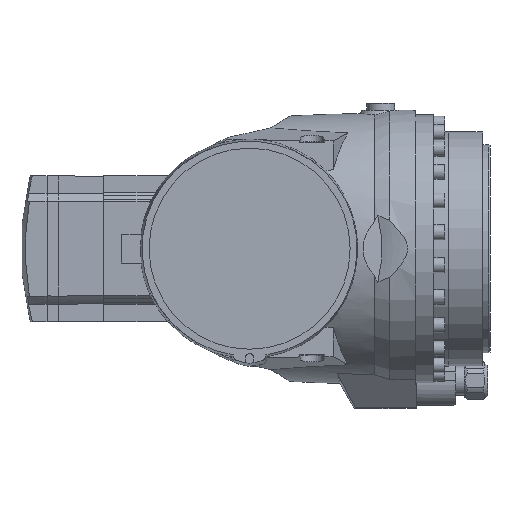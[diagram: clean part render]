
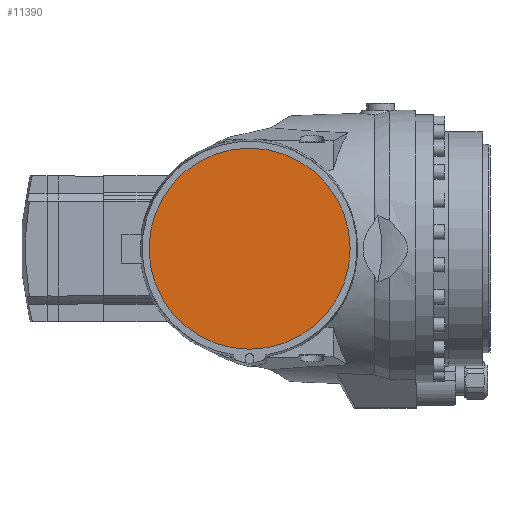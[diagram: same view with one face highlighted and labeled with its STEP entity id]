
A CAD part, front view. The second image highlights one B-rep face of the part: STEP entity #11390.
In plain terms, the highlighted planar face has unit normal (0, -1, 0).
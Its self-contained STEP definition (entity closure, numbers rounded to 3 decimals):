
#264 = DIRECTION ( 'NONE',  ( -1., 0., 0. ) ) ;
#2274 = CARTESIAN_POINT ( 'NONE',  ( 2543.5, -95., 2010. ) ) ;
#2402 = DIRECTION ( 'NONE',  ( 0., 1., 0. ) ) ;
#3552 = VERTEX_POINT ( 'NONE', #9914 ) ;
#3865 = DIRECTION ( 'NONE',  ( 0., 1., 0. ) ) ;
#4220 = FACE_OUTER_BOUND ( 'NONE', #18430, .T. ) ;
#9914 = CARTESIAN_POINT ( 'NONE',  ( 2543.5, -95., 2010. ) ) ;
#10203 = AXIS2_PLACEMENT_3D ( 'NONE', #2274, #2402, #264 ) ;
#10226 = DIRECTION ( 'NONE',  ( -1., 0., 0. ) ) ;
#11027 = EDGE_CURVE ( 'NONE', #3552, #3552, #19032, .T. ) ;
#11073 = AXIS2_PLACEMENT_3D ( 'NONE', #24956, #3865, #10226 ) ;
#11390 = ADVANCED_FACE ( 'NONE', ( #4220 ), #17087, .F. ) ;
#17087 = PLANE ( 'NONE',  #10203 ) ;
#18430 = EDGE_LOOP ( 'NONE', ( #25981 ) ) ;
#19032 = CIRCLE ( 'NONE', #11073, 69. ) ;
#24956 = CARTESIAN_POINT ( 'NONE',  ( 2612.5, -95., 2010. ) ) ;
#25981 = ORIENTED_EDGE ( 'NONE', *, *, #11027, .F. ) ;
